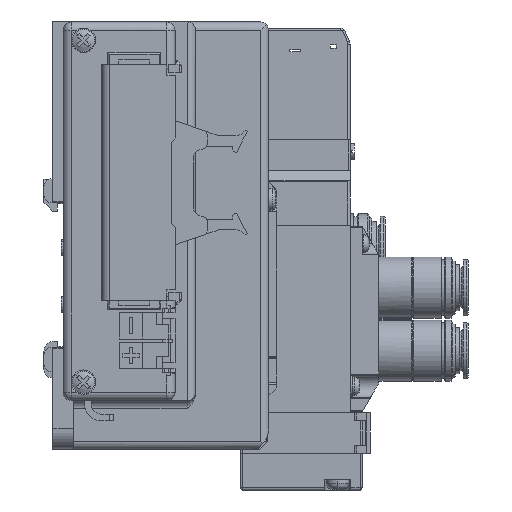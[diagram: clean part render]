
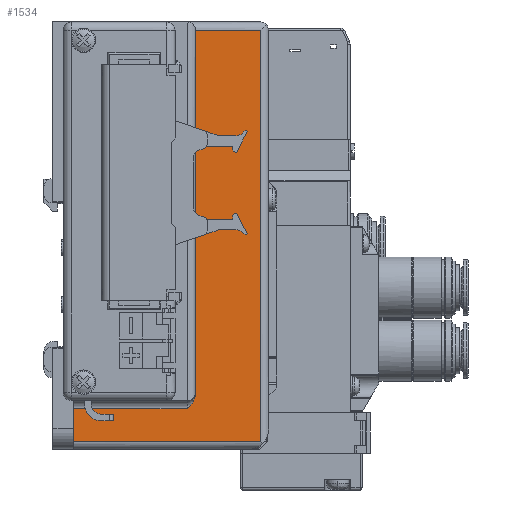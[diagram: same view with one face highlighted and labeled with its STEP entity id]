
A CAD part, left-side view. The second image highlights one B-rep face of the part: STEP entity #1534.
In plain terms, the highlighted planar face has unit normal (-1, 0, 0).
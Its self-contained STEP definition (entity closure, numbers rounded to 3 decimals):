
#1534=ADVANCED_FACE('',(#9640),#9639,.F.);
#9639=PLANE('',#18866);
#9640=FACE_OUTER_BOUND('',#18867,.T.);
#18863=CARTESIAN_POINT('',(19.5,-60.6,70.2));
#18864=DIRECTION('',(1.,0.,0.));
#18865=DIRECTION('',(0.,0.,-1.));
#18866=AXIS2_PLACEMENT_3D('',#18863,#18864,#18865);
#18867=EDGE_LOOP('',(#34487,#34488,#34489,#34490,#34491,#34492,#34493));
#34487=ORIENTED_EDGE('',*,*,#43790,.F.);
#34488=ORIENTED_EDGE('',*,*,#43733,.T.);
#34489=ORIENTED_EDGE('',*,*,#43987,.T.);
#34490=ORIENTED_EDGE('',*,*,#43577,.T.);
#34491=ORIENTED_EDGE('',*,*,#43848,.F.);
#34492=ORIENTED_EDGE('',*,*,#43850,.F.);
#34493=ORIENTED_EDGE('',*,*,#43787,.T.);
#43577=EDGE_CURVE('',#61221,#61222,#61223,.T.);
#43733=EDGE_CURVE('',#62287,#61277,#62300,.T.);
#43787=EDGE_CURVE('',#62657,#62650,#62658,.T.);
#43790=EDGE_CURVE('',#62287,#62650,#62676,.T.);
#43848=EDGE_CURVE('',#63061,#61222,#63062,.T.);
#43850=EDGE_CURVE('',#62657,#63061,#63074,.T.);
#43987=EDGE_CURVE('',#61277,#61221,#64007,.T.);
#61221=VERTEX_POINT('',#79172);
#61222=VERTEX_POINT('',#79173);
#61223=(BOUNDED_CURVE() B_SPLINE_CURVE(3,(#79174,#79175,#79176,#79177,#79178,#79179,#79180,#79181,#79182,#79183),.UNSPECIFIED.,.F.,.F.) B_SPLINE_CURVE_WITH_KNOTS((4,2,2,2,4),(0.,0.001,0.002,0.003,0.004),.UNSPECIFIED.) CURVE() GEOMETRIC_REPRESENTATION_ITEM() RATIONAL_B_SPLINE_CURVE((1.,1.,1.,1.,1.,1.,1.,1.,1.,1.)) REPRESENTATION_ITEM('') );
#61277=VERTEX_POINT('',#79215);
#62287=VERTEX_POINT('',#79803);
#62300=LINE('',#79810,#79811);
#62650=VERTEX_POINT('',#80022);
#62657=VERTEX_POINT('',#80026);
#62658=LINE('',#80027,#80028);
#62676=LINE('',#80048,#80049);
#63061=VERTEX_POINT('',#80276);
#63062=LINE('',#80277,#80278);
#63074=LINE('',#80284,#80285);
#64007=LINE('',#80851,#80852);
#79172=CARTESIAN_POINT('',(19.5,-40.,-29.336));
#79173=CARTESIAN_POINT('',(19.5,-38.,-32.8));
#79174=CARTESIAN_POINT('',(19.5,-40.,-29.336));
#79175=CARTESIAN_POINT('',(19.5,-40.,-29.683));
#79176=CARTESIAN_POINT('',(19.5,-39.934,-30.018));
#79177=CARTESIAN_POINT('',(19.5,-39.703,-30.669));
#79178=CARTESIAN_POINT('',(19.5,-39.543,-30.97));
#79179=CARTESIAN_POINT('',(19.5,-39.164,-31.539));
#79180=CARTESIAN_POINT('',(19.5,-38.945,-31.807));
#79181=CARTESIAN_POINT('',(19.5,-38.485,-32.315));
#79182=CARTESIAN_POINT('',(19.5,-38.241,-32.559));
#79183=CARTESIAN_POINT('',(19.5,-38.,-32.8));
#79215=CARTESIAN_POINT('',(19.5,-40.,60.2));
#79803=CARTESIAN_POINT('',(19.5,-56.,60.2));
#79810=CARTESIAN_POINT('',(19.5,-56.,60.2));
#79811=VECTOR('',#79812,16.);
#79812=DIRECTION('',(0.,1.,0.));
#80022=CARTESIAN_POINT('',(19.5,-56.,-40.8));
#80026=CARTESIAN_POINT('',(19.5,-10.,-40.8));
#80027=CARTESIAN_POINT('',(19.5,-10.,-40.8));
#80028=VECTOR('',#80029,46.);
#80029=DIRECTION('',(0.,-1.,0.));
#80048=CARTESIAN_POINT('',(19.5,-56.,60.2));
#80049=VECTOR('',#80050,101.);
#80050=DIRECTION('',(0.,0.,-1.));
#80276=CARTESIAN_POINT('',(19.5,-10.,-32.8));
#80277=CARTESIAN_POINT('',(19.5,-10.,-32.8));
#80278=VECTOR('',#80279,28.);
#80279=DIRECTION('',(0.,-1.,0.));
#80284=CARTESIAN_POINT('',(19.5,-10.,-40.8));
#80285=VECTOR('',#80286,8.);
#80286=DIRECTION('',(0.,0.,1.));
#80851=CARTESIAN_POINT('',(19.5,-40.,60.2));
#80852=VECTOR('',#80853,89.536);
#80853=DIRECTION('',(0.,0.,-1.));
